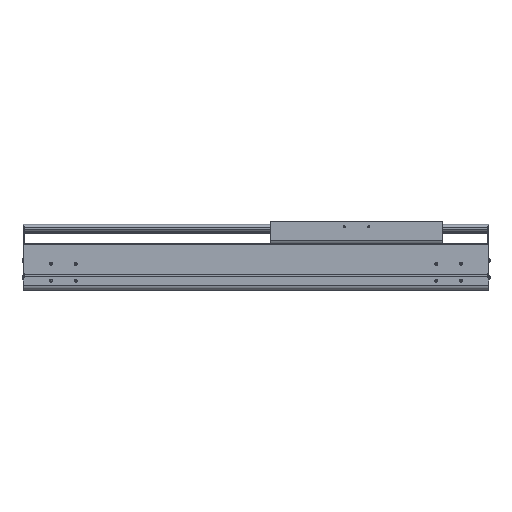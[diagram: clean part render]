
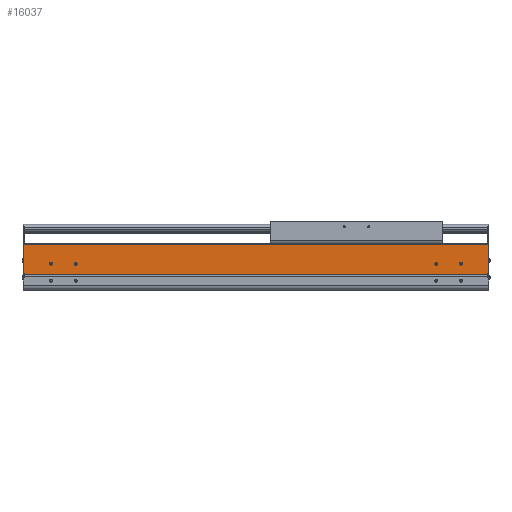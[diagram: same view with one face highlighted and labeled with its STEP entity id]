
A CAD part, top view. The second image highlights one B-rep face of the part: STEP entity #16037.
In plain terms, the highlighted planar face has unit normal (0, 0, 1).
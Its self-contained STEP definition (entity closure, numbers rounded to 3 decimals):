
#1620=DIRECTION('',(0.,-1.,0.));
#1621=VECTOR('',#1620,2.55);
#1622=CARTESIAN_POINT('',(0.,34.65,107.));
#1623=LINE('',#1622,#1621);
#2103=DIRECTION('',(1.,0.,0.));
#2104=VECTOR('',#2103,2.);
#2105=CARTESIAN_POINT('',(-941.,34.65,107.));
#2106=LINE('',#2105,#2104);
#2107=CARTESIAN_POINT('',(-54.5,54.,107.));
#2108=DIRECTION('',(0.,0.,-1.));
#2109=DIRECTION('',(1.,0.,0.));
#2110=AXIS2_PLACEMENT_3D('',#2107,#2108,#2109);
#2112=CARTESIAN_POINT('',(-54.5,54.,107.));
#2113=DIRECTION('',(0.,0.,-1.));
#2114=DIRECTION('',(-1.,0.,0.));
#2115=AXIS2_PLACEMENT_3D('',#2112,#2113,#2114);
#2117=CARTESIAN_POINT('',(-104.5,54.,107.));
#2118=DIRECTION('',(0.,0.,-1.));
#2119=DIRECTION('',(1.,0.,0.));
#2120=AXIS2_PLACEMENT_3D('',#2117,#2118,#2119);
#2122=CARTESIAN_POINT('',(-104.5,54.,107.));
#2123=DIRECTION('',(0.,0.,-1.));
#2124=DIRECTION('',(-1.,0.,0.));
#2125=AXIS2_PLACEMENT_3D('',#2122,#2123,#2124);
#2127=CARTESIAN_POINT('',(-884.5,54.,107.));
#2128=DIRECTION('',(0.,0.,-1.));
#2129=DIRECTION('',(1.,0.,0.));
#2130=AXIS2_PLACEMENT_3D('',#2127,#2128,#2129);
#2132=CARTESIAN_POINT('',(-884.5,54.,107.));
#2133=DIRECTION('',(0.,0.,-1.));
#2134=DIRECTION('',(-1.,0.,0.));
#2135=AXIS2_PLACEMENT_3D('',#2132,#2133,#2134);
#2137=CARTESIAN_POINT('',(-834.5,54.,107.));
#2138=DIRECTION('',(0.,0.,-1.));
#2139=DIRECTION('',(1.,0.,0.));
#2140=AXIS2_PLACEMENT_3D('',#2137,#2138,#2139);
#2142=CARTESIAN_POINT('',(-834.5,54.,107.));
#2143=DIRECTION('',(0.,0.,-1.));
#2144=DIRECTION('',(-1.,0.,0.));
#2145=AXIS2_PLACEMENT_3D('',#2142,#2143,#2144);
#2147=DIRECTION('',(0.,-1.,0.));
#2148=VECTOR('',#2147,2.55);
#2149=CARTESIAN_POINT('',(-939.,34.65,107.));
#2150=LINE('',#2149,#2148);
#2151=DIRECTION('',(0.,-1.,0.));
#2152=VECTOR('',#2151,58.85);
#2153=CARTESIAN_POINT('',(-941.,93.5,107.));
#2154=LINE('',#2153,#2152);
#2155=DIRECTION('',(0.,1.,0.));
#2156=VECTOR('',#2155,58.85);
#2157=CARTESIAN_POINT('',(2.,34.65,107.));
#2158=LINE('',#2157,#2156);
#2159=DIRECTION('',(1.,0.,0.));
#2160=VECTOR('',#2159,939.);
#2161=CARTESIAN_POINT('',(-939.,32.1,107.));
#2162=LINE('',#2161,#2160);
#2267=DIRECTION('',(-1.,0.,0.));
#2268=VECTOR('',#2267,943.);
#2269=CARTESIAN_POINT('',(2.,93.5,107.));
#2270=LINE('',#2269,#2268);
#9323=DIRECTION('',(1.,0.,0.));
#9324=VECTOR('',#9323,2.);
#9325=CARTESIAN_POINT('',(0.,34.65,107.));
#9326=LINE('',#9325,#9324);
#10573=CARTESIAN_POINT('',(-941.,34.65,107.));
#10574=VERTEX_POINT('',#10573);
#10575=CARTESIAN_POINT('',(-941.,93.5,107.));
#10576=VERTEX_POINT('',#10575);
#10805=CARTESIAN_POINT('',(-939.,32.1,107.));
#10806=VERTEX_POINT('',#10805);
#11221=CARTESIAN_POINT('',(0.,32.1,107.));
#11222=VERTEX_POINT('',#11221);
#11223=CARTESIAN_POINT('',(-52.,54.,107.));
#11224=CARTESIAN_POINT('',(-57.,54.,107.));
#11225=VERTEX_POINT('',#11223);
#11226=VERTEX_POINT('',#11224);
#11227=CARTESIAN_POINT('',(-102.,54.,107.));
#11228=CARTESIAN_POINT('',(-107.,54.,107.));
#11229=VERTEX_POINT('',#11227);
#11230=VERTEX_POINT('',#11228);
#11231=CARTESIAN_POINT('',(-882.,54.,107.));
#11232=CARTESIAN_POINT('',(-887.,54.,107.));
#11233=VERTEX_POINT('',#11231);
#11234=VERTEX_POINT('',#11232);
#11235=CARTESIAN_POINT('',(-832.,54.,107.));
#11236=CARTESIAN_POINT('',(-837.,54.,107.));
#11237=VERTEX_POINT('',#11235);
#11238=VERTEX_POINT('',#11236);
#12227=CARTESIAN_POINT('',(2.,34.65,107.));
#12228=VERTEX_POINT('',#12227);
#12229=CARTESIAN_POINT('',(2.,93.5,107.));
#12230=VERTEX_POINT('',#12229);
#12573=CARTESIAN_POINT('',(0.,34.65,107.));
#12574=VERTEX_POINT('',#12573);
#12761=CARTESIAN_POINT('',(-939.,34.65,107.));
#12762=VERTEX_POINT('',#12761);
#15995=CARTESIAN_POINT('',(-469.5,62.8,107.));
#15996=DIRECTION('',(0.,0.,1.));
#15997=DIRECTION('',(0.,-1.,0.));
#15998=AXIS2_PLACEMENT_3D('',#15995,#15996,#15997);
#15999=PLANE('',#15998);
#16000=ORIENTED_EDGE('',*,*,#14248,.F.);
#16001=ORIENTED_EDGE('',*,*,#15990,.F.);
#16002=ORIENTED_EDGE('',*,*,#14877,.F.);
#16004=ORIENTED_EDGE('',*,*,#16003,.F.);
#16005=ORIENTED_EDGE('',*,*,#13986,.F.);
#16007=ORIENTED_EDGE('',*,*,#16006,.F.);
#16008=ORIENTED_EDGE('',*,*,#15597,.T.);
#16010=ORIENTED_EDGE('',*,*,#16009,.F.);
#16011=EDGE_LOOP('',(#16000,#16001,#16002,#16004,#16005,#16007,#16008,#16010));
#16012=FACE_OUTER_BOUND('',#16011,.F.);
#16014=ORIENTED_EDGE('',*,*,#16013,.F.);
#16016=ORIENTED_EDGE('',*,*,#16015,.F.);
#16017=EDGE_LOOP('',(#16014,#16016));
#16018=FACE_BOUND('',#16017,.F.);
#16020=ORIENTED_EDGE('',*,*,#16019,.F.);
#16022=ORIENTED_EDGE('',*,*,#16021,.F.);
#16023=EDGE_LOOP('',(#16020,#16022));
#16024=FACE_BOUND('',#16023,.F.);
#16026=ORIENTED_EDGE('',*,*,#16025,.F.);
#16028=ORIENTED_EDGE('',*,*,#16027,.F.);
#16029=EDGE_LOOP('',(#16026,#16028));
#16030=FACE_BOUND('',#16029,.F.);
#16032=ORIENTED_EDGE('',*,*,#16031,.F.);
#16034=ORIENTED_EDGE('',*,*,#16033,.F.);
#16035=EDGE_LOOP('',(#16032,#16034));
#16036=FACE_BOUND('',#16035,.F.);
#16037=ADVANCED_FACE('',(#16012,#16018,#16024,#16030,#16036),#15999,.T.);
#2111=CIRCLE('',#2110,2.5);
#2116=CIRCLE('',#2115,2.5);
#2121=CIRCLE('',#2120,2.5);
#2126=CIRCLE('',#2125,2.5);
#2131=CIRCLE('',#2130,2.5);
#2136=CIRCLE('',#2135,2.5);
#2141=CIRCLE('',#2140,2.5);
#2146=CIRCLE('',#2145,2.5);
#13986=EDGE_CURVE('',#12228,#12230,#2158,.T.);
#14248=EDGE_CURVE('',#12762,#10806,#2150,.T.);
#14877=EDGE_CURVE('',#10576,#10574,#2154,.T.);
#15597=EDGE_CURVE('',#12574,#11222,#1623,.T.);
#15990=EDGE_CURVE('',#10574,#12762,#2106,.T.);
#16003=EDGE_CURVE('',#12230,#10576,#2270,.T.);
#16006=EDGE_CURVE('',#12574,#12228,#9326,.T.);
#16009=EDGE_CURVE('',#10806,#11222,#2162,.T.);
#16013=EDGE_CURVE('',#11229,#11230,#2121,.T.);
#16015=EDGE_CURVE('',#11230,#11229,#2126,.T.);
#16019=EDGE_CURVE('',#11233,#11234,#2131,.T.);
#16021=EDGE_CURVE('',#11234,#11233,#2136,.T.);
#16025=EDGE_CURVE('',#11237,#11238,#2141,.T.);
#16027=EDGE_CURVE('',#11238,#11237,#2146,.T.);
#16031=EDGE_CURVE('',#11225,#11226,#2111,.T.);
#16033=EDGE_CURVE('',#11226,#11225,#2116,.T.);
